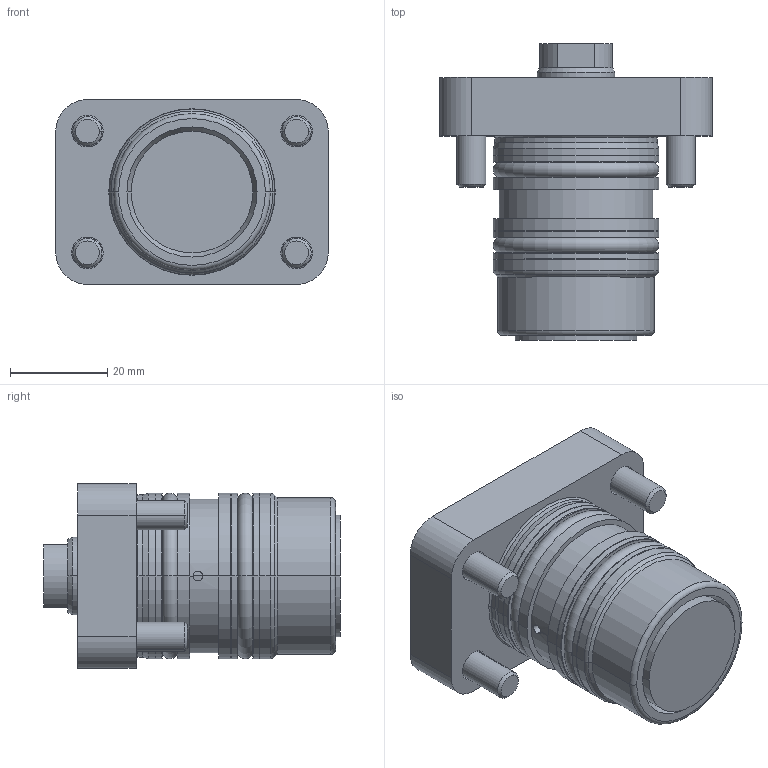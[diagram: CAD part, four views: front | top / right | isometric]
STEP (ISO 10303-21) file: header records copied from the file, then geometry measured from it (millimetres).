
FILE_DESCRIPTION (( 'STEP AP203' ), '1' );
FILE_NAME ('GERMA_Einbauzylinder_210-025-020.STEP', '2023-09-06T15:54:32', ( '' ), ( '' ), 'SwSTEP 2.0', 'SolidWorks 2016', '' );
FILE_SCHEMA (( 'CONFIG_CONTROL_DESIGN' ));
Length unit declared in the file: millimetre
Products named in the file (4): Kolben 60x-025_Kolben DU.25-Hub20-IG; GERMA_Einbauzylinder_210-025-020; DIN7984-M6x18; Gehaeuse 210-025_Gehaeuse 210-025-020
Assembly tree (6 placements, depth 2):
  GERMA_Einbauzylinder_210-025-020
    Gehaeuse 210-025_Gehaeuse 210-025-020
    Kolben 60x-025_Kolben DU.25-Hub20-IG
    DIN7984-M6x18  x4
Bounding box: 56 x 61 x 38 mm (x, y, z)
Volume: 55185.8 mm3; surface area: 23093.6 mm2
Topology: 6 solids, 6 shells, 374 faces, 893 edges, 558 vertices
Faces by surface type: plane 163, bspline 84, cylinder 75, cone 30, torus 22
Entity records: 12880 total; most frequent: CARTESIAN_POINT 5804, ORIENTED_EDGE 1430, DIRECTION 1218, EDGE_CURVE 715, VERTEX_POINT 459, AXIS2_PLACEMENT_3D 421, LINE 376, VECTOR 376
